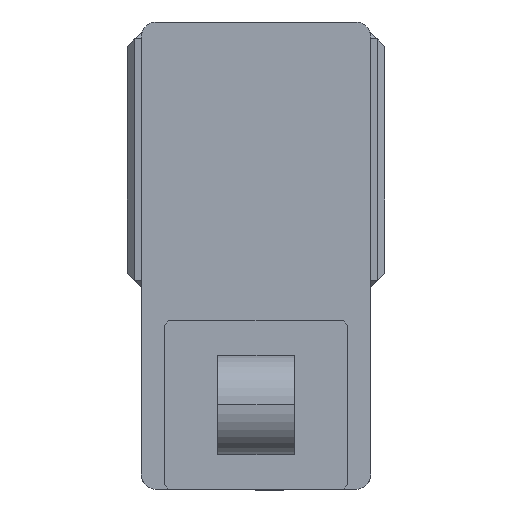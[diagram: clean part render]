
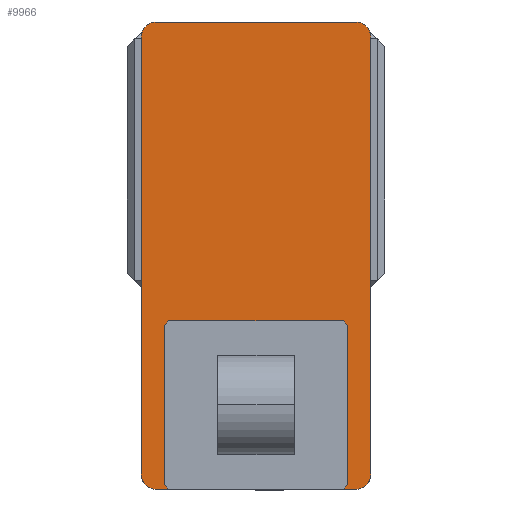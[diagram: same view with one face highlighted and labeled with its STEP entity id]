
A CAD part, left-side view. The second image highlights one B-rep face of the part: STEP entity #9966.
In plain terms, the highlighted planar face has unit normal (-1, 0, 0) as drawn and (0, 0, 1) by its records, which use the part's own axes.
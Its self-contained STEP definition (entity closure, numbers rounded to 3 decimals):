
#61 = CARTESIAN_POINT ( 'NONE',  ( -65., -142.5, 105. ) ) ;
#646 = DIRECTION ( 'NONE',  ( 0., 0., 1. ) ) ;
#670 = CARTESIAN_POINT ( 'NONE',  ( -65., -152.5, 105. ) ) ;
#783 = ORIENTED_EDGE ( 'NONE', *, *, #845, .T. ) ;
#845 = EDGE_CURVE ( 'NONE', #7177, #3318, #2590, .T. ) ;
#907 = EDGE_CURVE ( 'NONE', #4819, #3344, #3513, .T. ) ;
#946 = CARTESIAN_POINT ( 'NONE',  ( -75., 152.5, 105. ) ) ;
#1054 = EDGE_CURVE ( 'NONE', #3318, #6901, #8979, .T. ) ;
#1077 = DIRECTION ( 'NONE',  ( 0., 0., 1. ) ) ;
#1659 = DIRECTION ( 'NONE',  ( 1., 0., 0. ) ) ;
#1669 = ORIENTED_EDGE ( 'NONE', *, *, #6993, .T. ) ;
#1701 = ORIENTED_EDGE ( 'NONE', *, *, #1054, .T. ) ;
#1833 = LINE ( 'NONE', #946, #7566 ) ;
#1931 = CARTESIAN_POINT ( 'NONE',  ( 65., -152.5, 105. ) ) ;
#2133 = VECTOR ( 'NONE', #6625, 1000. ) ;
#2242 = ORIENTED_EDGE ( 'NONE', *, *, #7624, .T. ) ;
#2317 = ORIENTED_EDGE ( 'NONE', *, *, #4686, .T. ) ;
#2590 = LINE ( 'NONE', #4225, #6295 ) ;
#2668 = DIRECTION ( 'NONE',  ( 0., 0., 1. ) ) ;
#2755 = AXIS2_PLACEMENT_3D ( 'NONE', #61, #646, #1659 ) ;
#2932 = CARTESIAN_POINT ( 'NONE',  ( 75., -142.5, 105. ) ) ;
#3207 = CARTESIAN_POINT ( 'NONE',  ( -65., 152.5, 105. ) ) ;
#3318 = VERTEX_POINT ( 'NONE', #10835 ) ;
#3322 = CARTESIAN_POINT ( 'NONE',  ( -65., 142.5, 105. ) ) ;
#3344 = VERTEX_POINT ( 'NONE', #670 ) ;
#3404 = CARTESIAN_POINT ( 'NONE',  ( 65., 142.5, 105. ) ) ;
#3494 = ORIENTED_EDGE ( 'NONE', *, *, #907, .T. ) ;
#3513 = CIRCLE ( 'NONE', #2755, 10. ) ;
#3682 = VECTOR ( 'NONE', #10949, 1000. ) ;
#4094 = CARTESIAN_POINT ( 'NONE',  ( -75., -152.5, 105. ) ) ;
#4167 = DIRECTION ( 'NONE',  ( 1., 0., 0. ) ) ;
#4225 = CARTESIAN_POINT ( 'NONE',  ( 75., 152.5, 105. ) ) ;
#4388 = LINE ( 'NONE', #4829, #2133 ) ;
#4686 = EDGE_CURVE ( 'NONE', #10533, #7177, #5501, .T. ) ;
#4819 = VERTEX_POINT ( 'NONE', #9751 ) ;
#4829 = CARTESIAN_POINT ( 'NONE',  ( -75., 152.5, 105. ) ) ;
#5046 = CARTESIAN_POINT ( 'NONE',  ( 65., 152.5, 105. ) ) ;
#5053 = EDGE_CURVE ( 'NONE', #6913, #4819, #4388, .T. ) ;
#5119 = EDGE_CURVE ( 'NONE', #10824, #6913, #10688, .T. ) ;
#5495 = FACE_OUTER_BOUND ( 'NONE', #10461, .T. ) ;
#5501 = CIRCLE ( 'NONE', #5552, 10. ) ;
#5545 = ORIENTED_EDGE ( 'NONE', *, *, #5119, .T. ) ;
#5552 = AXIS2_PLACEMENT_3D ( 'NONE', #7755, #2668, #8616 ) ;
#6187 = CARTESIAN_POINT ( 'NONE',  ( 0., 0., 105. ) ) ;
#6295 = VECTOR ( 'NONE', #6647, 1000. ) ;
#6396 = AXIS2_PLACEMENT_3D ( 'NONE', #6187, #1077, #7049 ) ;
#6625 = DIRECTION ( 'NONE',  ( 0., -1., 0. ) ) ;
#6647 = DIRECTION ( 'NONE',  ( 0., 1., 0. ) ) ;
#6901 = VERTEX_POINT ( 'NONE', #5046 ) ;
#6905 = DIRECTION ( 'NONE',  ( -1., 0., 0. ) ) ;
#6913 = VERTEX_POINT ( 'NONE', #8488 ) ;
#6993 = EDGE_CURVE ( 'NONE', #6901, #10824, #1833, .T. ) ;
#7049 = DIRECTION ( 'NONE',  ( 1., 0., 0. ) ) ;
#7177 = VERTEX_POINT ( 'NONE', #2932 ) ;
#7566 = VECTOR ( 'NONE', #6905, 1000. ) ;
#7624 = EDGE_CURVE ( 'NONE', #3344, #10533, #11054, .T. ) ;
#7755 = CARTESIAN_POINT ( 'NONE',  ( 65., -142.5, 105. ) ) ;
#7858 = ORIENTED_EDGE ( 'NONE', *, *, #5053, .T. ) ;
#8488 = CARTESIAN_POINT ( 'NONE',  ( -75., 142.5, 105. ) ) ;
#8616 = DIRECTION ( 'NONE',  ( 1., 0., 0. ) ) ;
#8979 = CIRCLE ( 'NONE', #9621, 10. ) ;
#9292 = DIRECTION ( 'NONE',  ( 0., 0., 1. ) ) ;
#9376 = AXIS2_PLACEMENT_3D ( 'NONE', #3322, #9292, #4167 ) ;
#9609 = PLANE ( 'NONE',  #6396 ) ;
#9621 = AXIS2_PLACEMENT_3D ( 'NONE', #3404, #9632, #10123 ) ;
#9632 = DIRECTION ( 'NONE',  ( 0., 0., 1. ) ) ;
#9751 = CARTESIAN_POINT ( 'NONE',  ( -75., -142.5, 105. ) ) ;
#9966 = ADVANCED_FACE ( 'NONE', ( #5495 ), #9609, .T. ) ;
#10123 = DIRECTION ( 'NONE',  ( 1., 0., 0. ) ) ;
#10461 = EDGE_LOOP ( 'NONE', ( #2242, #2317, #783, #1701, #1669, #5545, #7858, #3494 ) ) ;
#10533 = VERTEX_POINT ( 'NONE', #1931 ) ;
#10688 = CIRCLE ( 'NONE', #9376, 10. ) ;
#10824 = VERTEX_POINT ( 'NONE', #3207 ) ;
#10835 = CARTESIAN_POINT ( 'NONE',  ( 75., 142.5, 105. ) ) ;
#10949 = DIRECTION ( 'NONE',  ( 1., 0., 0. ) ) ;
#11054 = LINE ( 'NONE', #4094, #3682 ) ;
